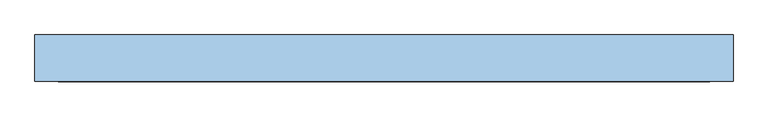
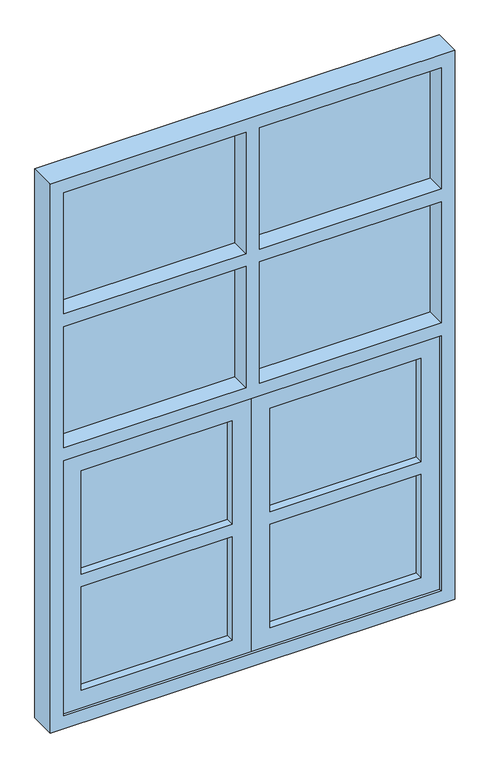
"""IFC4 building model written with IfcOpenShell, lengths in millimetres: window geometry, ARQ-VE-EX-215x170-Ace : ARQ-VE-EX-215x170-Ace."""

from ifc_helpers import new_model, si_unit, frame, origin, place, context, project, spatial, polyline, outline, extrude, source, transform, mapped, element, save


def window_b09a553c(model_context):
    return source(origin(), model_context, "Body", "SweptSolid", [
        extrude(outline(polyline([(3200.0, -750.0), (1050.0, -750.0), (1050.0, 750.0), (3200.0, 750.0), (3200.0, -750.0)]), holes=[polyline([(3150.0, 25.0), (3150.0, 700.0), (2675.0, 700.0), (2675.0, 25.0), (3150.0, 25.0)]), polyline([(2625.0, 700.0), (2150.0, 700.0), (2150.0, 25.0), (2625.0, 25.0), (2625.0, 700.0)]), polyline([(2675.0, -700.0), (3150.0, -700.0), (3150.0, -25.0), (2675.0, -25.0), (2675.0, -700.0)]), polyline([(2100.0, 700.0), (1100.0, 700.0), (1100.0, -700.0), (2100.0, -700.0), (2100.0, 700.0)]), polyline([(2150.0, -25.0), (2150.0, -700.0), (2625.0, -700.0), (2625.0, -25.0), (2150.0, -25.0)])]), frame((0.0, -100.0, 0.0), z_axis=(0.0, 1.0, 0.0), x_axis=(0.0, 0.0, 1.0)), (0.0, 0.0, 1.0), 100.0),
        extrude(outline(polyline([(-25.0, -20.0), (-25.0, -30.0), (-700.0, -30.0), (-700.0, -20.0), (-25.0, -20.0)])), frame((0.0, 0.0, 2675.0), z_axis=(0.0, 0.0, 1.0), x_axis=(1.0, 0.0, 0.0)), (0.0, 0.0, 1.0), 475.0),
        extrude(outline(polyline([(700.0, -20.0), (700.0, -30.0), (25.0, -30.0), (25.0, -20.0), (700.0, -20.0)])), frame((0.0, 0.0, 2675.0), z_axis=(0.0, 0.0, 1.0), x_axis=(1.0, 0.0, 0.0)), (0.0, 0.0, 1.0), 475.0),
        extrude(outline(polyline([(-25.0, -20.0), (-25.0, -30.0), (-700.0, -30.0), (-700.0, -20.0), (-25.0, -20.0)])), frame((0.0, 0.0, 2150.0), z_axis=(0.0, 0.0, 1.0), x_axis=(1.0, 0.0, 0.0)), (0.0, 0.0, 1.0), 475.0),
        extrude(outline(polyline([(700.0, -20.0), (700.0, -30.0), (25.0, -30.0), (25.0, -20.0), (700.0, -20.0)])), frame((0.0, 0.0, 2150.0), z_axis=(0.0, 0.0, 1.0), x_axis=(1.0, 0.0, 0.0)), (0.0, 0.0, 1.0), 475.0),
        extrude(outline(polyline([(2100.0, 0.0), (2100.0, -700.0), (1100.0, -700.0), (1100.0, 0.0), (2100.0, 0.0)]), holes=[polyline([(1170.0, -70.0), (1170.0, -630.0), (1575.0, -630.0), (1575.0, -70.0), (1170.0, -70.0)]), polyline([(1625.0, -630.0), (2030.0, -630.0), (2030.0, -70.0), (1625.0, -70.0), (1625.0, -630.0)])]), frame((0.0, -90.0, 0.0), z_axis=(0.0, 1.0, 0.0), x_axis=(0.0, 0.0, 1.0)), (0.0, 0.0, 1.0), 80.0),
        extrude(outline(polyline([(-70.0, -40.0), (-70.0, -60.0), (-630.0, -60.0), (-630.0, -40.0), (-70.0, -40.0)])), frame((0.0, 0.0, 1625.0), z_axis=(0.0, 0.0, 1.0), x_axis=(1.0, 0.0, 0.0)), (0.0, 0.0, 1.0), 405.0),
        extrude(outline(polyline([(-70.0, -40.0), (-70.0, -60.0), (-630.0, -60.0), (-630.0, -40.0), (-70.0, -40.0)])), frame((0.0, 0.0, 1170.0), z_axis=(0.0, 0.0, 1.0), x_axis=(1.0, 0.0, 0.0)), (0.0, 0.0, 1.0), 405.0),
        extrude(outline(polyline([(630.0, -40.0), (630.0, -60.0), (70.0, -60.0), (70.0, -40.0), (630.0, -40.0)])), frame((0.0, 0.0, 1170.0), z_axis=(0.0, 0.0, 1.0), x_axis=(1.0, 0.0, 0.0)), (0.0, 0.0, 1.0), 405.0),
        extrude(outline(polyline([(630.0, -40.0), (630.0, -60.0), (70.0, -60.0), (70.0, -40.0), (630.0, -40.0)])), frame((0.0, 0.0, 1625.0), z_axis=(0.0, 0.0, 1.0), x_axis=(1.0, 0.0, 0.0)), (0.0, 0.0, 1.0), 405.0),
        extrude(outline(polyline([(2100.0, 0.0), (1100.0, 0.0), (1100.0, 700.0), (2100.0, 700.0), (2100.0, 0.0)]), holes=[polyline([(1170.0, 70.0), (1575.0, 70.0), (1575.0, 630.0), (1170.0, 630.0), (1170.0, 70.0)]), polyline([(1625.0, 630.0), (1625.0, 70.0), (2030.0, 70.0), (2030.0, 630.0), (1625.0, 630.0)])]), frame((0.0, -90.0, 0.0), z_axis=(0.0, 1.0, 0.0), x_axis=(0.0, 0.0, 1.0)), (0.0, 0.0, 1.0), 80.0),
    ])


if __name__ == "__main__":
    model = new_model("IFC4")
    model_context = context("Model", 3, world=origin())
    ifc_project = project(units=[si_unit("LENGTHUNIT", "METRE", prefix="MILLI")], contexts=[model_context])
    site = spatial("IfcSite", under=ifc_project)
    building = spatial("IfcBuilding", under=site)
    placement = place(None, origin())
    window_shape = window_b09a553c(model_context)
    element("IfcWindow", 1, ObjectType="ARQ-VE-EX-215x170-Ace : ARQ-VE-EX-215x170-Ace", at=placement, inside=building, context=model_context, shape_type="MappedRepresentation", body=[
        mapped(window_shape, transform((0.0, 0.0, 0.0), x_axis=(1.0, 0.0, 0.0), y_axis=(0.0, 1.0, 0.0), z_axis=(0.0, 0.0, 1.0))),
    ])
    save(model, "model.ifc")
